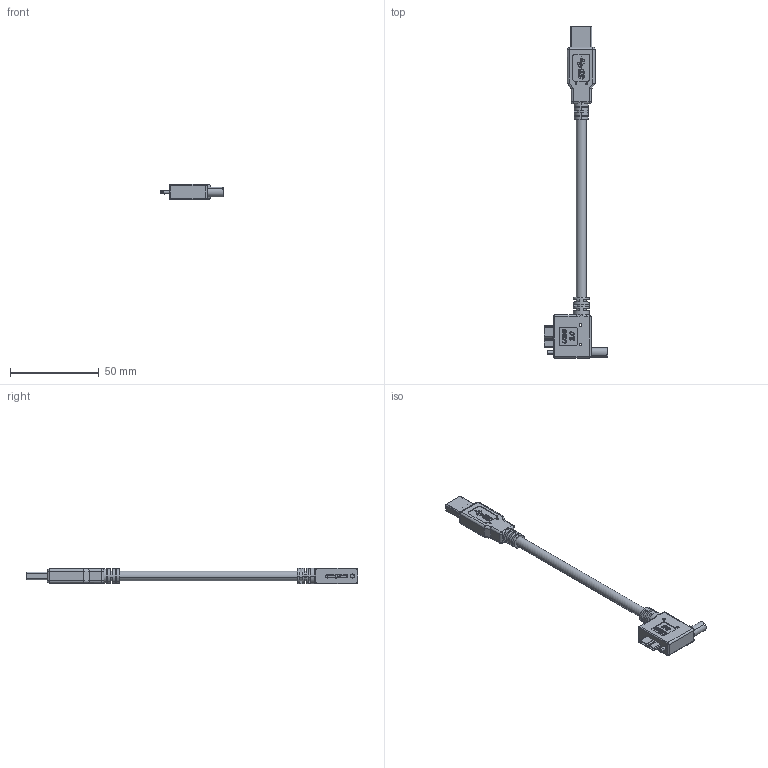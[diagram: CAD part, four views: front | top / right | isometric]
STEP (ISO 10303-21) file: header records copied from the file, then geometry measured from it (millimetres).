
FILE_DESCRIPTION (( 'STEP AP203' ), '1' );
FILE_NAME ('RR-ASMLK-XXGR.STEP', '2015-09-21T08:42:10', ( '' ), ( '' ), 'SwSTEP 2.0', 'SolidWorks 2012', '' );
FILE_SCHEMA (( 'CONFIG_CONTROL_DESIGN' ));
Length unit declared in the file: millimetre
Products named in the file (9): RR-ASMLK-XXGR; RR-MLK; Micro usb-b 3.0 plug; 5.5x34; MRK&MLK; Cable; RR-AS; USB-A PLUG SHORT; AS
Assembly tree (8 placements, depth 3):
  RR-ASMLK-XXGR
    RR-AS
      AS
      USB-A PLUG SHORT
    Cable
    RR-MLK
      MRK&MLK
      5.5x34
      Micro usb-b 3.0 plug
Bounding box: 35.9 x 186.8 x 9 mm (x, y, z)
Volume: 12491.1 mm3; surface area: 8326.5 mm2
Topology: 6 solids, 6 shells, 636 faces, 1690 edges, 1090 vertices
Faces by surface type: plane 438, cylinder 133, bspline 43, sphere 12, torus 6, cone 4
Entity records: 22299 total; most frequent: CARTESIAN_POINT 5703, ORIENTED_EDGE 3348, DIRECTION 3067, EDGE_CURVE 1674, VECTOR 1287, LINE 1287, VERTEX_POINT 1090, AXIS2_PLACEMENT_3D 890
